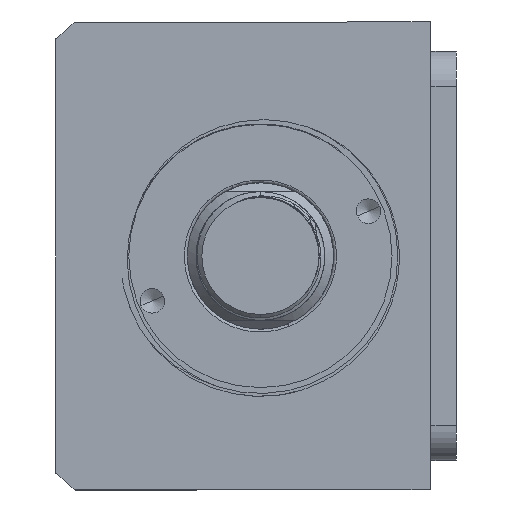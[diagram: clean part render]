
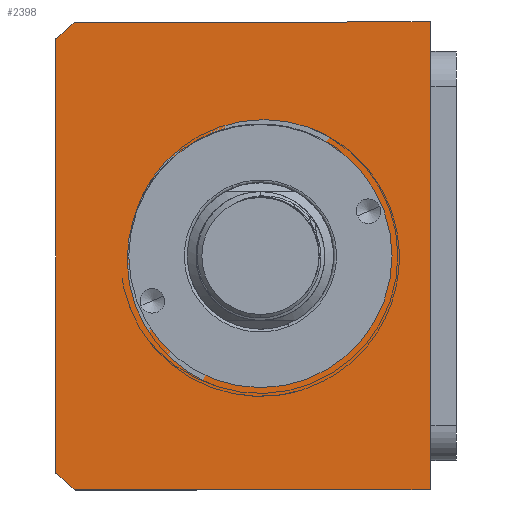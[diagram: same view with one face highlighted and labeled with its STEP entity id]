
A CAD part, front view. The second image highlights one B-rep face of the part: STEP entity #2398.
In plain terms, the highlighted planar face has unit normal (0, -1, 0) as drawn and (0, 0, 1) by its records, which use the part's own axes.
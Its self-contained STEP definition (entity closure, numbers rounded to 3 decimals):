
#19 = EDGE_CURVE ( 'NONE', #7523, #5076, #9943, .T. ) ;
#578 = DIRECTION ( 'NONE',  ( 0., 0., 1. ) ) ;
#653 = FACE_OUTER_BOUND ( 'NONE', #3379, .T. ) ;
#754 = CARTESIAN_POINT ( 'NONE',  ( -40., -11.507, 115. ) ) ;
#1403 = ORIENTED_EDGE ( 'NONE', *, *, #12063, .T. ) ;
#1506 = AXIS2_PLACEMENT_3D ( 'NONE', #9922, #10005, #3648 ) ;
#1527 = PLANE ( 'NONE',  #1506 ) ;
#1690 = VERTEX_POINT ( 'NONE', #9118 ) ;
#1837 = CARTESIAN_POINT ( 'NONE',  ( 0., -40.507, 115. ) ) ;
#1945 = EDGE_CURVE ( 'NONE', #13014, #11831, #2325, .T. ) ;
#1974 = LINE ( 'NONE', #754, #12934 ) ;
#2065 = EDGE_CURVE ( 'NONE', #13606, #13014, #2645, .T. ) ;
#2257 = DIRECTION ( 'NONE',  ( 0., 0., 1. ) ) ;
#2325 = LINE ( 'NONE', #10816, #5145 ) ;
#2398 = ADVANCED_FACE ( 'NONE', ( #11297, #653 ), #1527, .T. ) ;
#2408 = CARTESIAN_POINT ( 'NONE',  ( 0., -40.507, 115. ) ) ;
#2645 = CIRCLE ( 'NONE', #6039, 51. ) ;
#2891 = DIRECTION ( 'NONE',  ( 1., 0., 0. ) ) ;
#3378 = DIRECTION ( 'NONE',  ( 0., 1., 0. ) ) ;
#3379 = EDGE_LOOP ( 'NONE', ( #6278, #11901, #1403, #3975, #8883, #13219 ) ) ;
#3463 = DIRECTION ( 'NONE',  ( 1., 0., 0. ) ) ;
#3539 = EDGE_CURVE ( 'NONE', #11831, #1690, #1974, .T. ) ;
#3648 = DIRECTION ( 'NONE',  ( 1., 0., 0. ) ) ;
#3975 = ORIENTED_EDGE ( 'NONE', *, *, #2065, .T. ) ;
#4186 = CARTESIAN_POINT ( 'NONE',  ( 40., -72.145, 115. ) ) ;
#4228 = CIRCLE ( 'NONE', #6973, 22.5 ) ;
#4627 = AXIS2_PLACEMENT_3D ( 'NONE', #6930, #578, #7985 ) ;
#4701 = EDGE_CURVE ( 'NONE', #1690, #11893, #9413, .T. ) ;
#5076 = VERTEX_POINT ( 'NONE', #12718 ) ;
#5145 = VECTOR ( 'NONE', #3378, 1000. ) ;
#5739 = VERTEX_POINT ( 'NONE', #6178 ) ;
#6039 = AXIS2_PLACEMENT_3D ( 'NONE', #2408, #9825, #3463 ) ;
#6178 = CARTESIAN_POINT ( 'NONE',  ( -37.094, -75.507, 115. ) ) ;
#6278 = ORIENTED_EDGE ( 'NONE', *, *, #4701, .T. ) ;
#6469 = CARTESIAN_POINT ( 'NONE',  ( 0., -40.507, 115. ) ) ;
#6587 = VECTOR ( 'NONE', #9026, 1000. ) ;
#6930 = CARTESIAN_POINT ( 'NONE',  ( 0., -40.507, 115. ) ) ;
#6973 = AXIS2_PLACEMENT_3D ( 'NONE', #1837, #9242, #2891 ) ;
#7523 = VERTEX_POINT ( 'NONE', #12179 ) ;
#7563 = EDGE_CURVE ( 'NONE', #11893, #5739, #13220, .T. ) ;
#7957 = CARTESIAN_POINT ( 'NONE',  ( -40., -11.507, 115. ) ) ;
#7985 = DIRECTION ( 'NONE',  ( 1., 0., 0. ) ) ;
#8341 = ORIENTED_EDGE ( 'NONE', *, *, #19, .F. ) ;
#8855 = VECTOR ( 'NONE', #11579, 1000. ) ;
#8883 = ORIENTED_EDGE ( 'NONE', *, *, #1945, .T. ) ;
#9026 = DIRECTION ( 'NONE',  ( 0., -1., 0. ) ) ;
#9118 = CARTESIAN_POINT ( 'NONE',  ( -40., -11.507, 115. ) ) ;
#9195 = CARTESIAN_POINT ( 'NONE',  ( 40., -11.507, 115. ) ) ;
#9236 = DIRECTION ( 'NONE',  ( -1., 0., 0. ) ) ;
#9242 = DIRECTION ( 'NONE',  ( 0., 0., 1. ) ) ;
#9413 = LINE ( 'NONE', #7957, #6587 ) ;
#9671 = DIRECTION ( 'NONE',  ( 1., 0., 0. ) ) ;
#9825 = DIRECTION ( 'NONE',  ( 0., 0., 1. ) ) ;
#9922 = CARTESIAN_POINT ( 'NONE',  ( 0., 0., 115. ) ) ;
#9943 = CIRCLE ( 'NONE', #12587, 22.5 ) ;
#10005 = DIRECTION ( 'NONE',  ( 0., 0., 1. ) ) ;
#10495 = CARTESIAN_POINT ( 'NONE',  ( -40., -75.507, 115. ) ) ;
#10816 = CARTESIAN_POINT ( 'NONE',  ( 40., -11.507, 115. ) ) ;
#11297 = FACE_BOUND ( 'NONE', #13105, .T. ) ;
#11579 = DIRECTION ( 'NONE',  ( 1., 0., 0. ) ) ;
#11730 = LINE ( 'NONE', #10495, #8855 ) ;
#11831 = VERTEX_POINT ( 'NONE', #9195 ) ;
#11850 = EDGE_CURVE ( 'NONE', #5076, #7523, #4228, .T. ) ;
#11893 = VERTEX_POINT ( 'NONE', #13515 ) ;
#11901 = ORIENTED_EDGE ( 'NONE', *, *, #7563, .T. ) ;
#12063 = EDGE_CURVE ( 'NONE', #5739, #13606, #11730, .T. ) ;
#12179 = CARTESIAN_POINT ( 'NONE',  ( 22.5, -40.507, 115. ) ) ;
#12517 = ORIENTED_EDGE ( 'NONE', *, *, #11850, .F. ) ;
#12587 = AXIS2_PLACEMENT_3D ( 'NONE', #6469, #2257, #9671 ) ;
#12718 = CARTESIAN_POINT ( 'NONE',  ( -22.5, -40.507, 115. ) ) ;
#12934 = VECTOR ( 'NONE', #9236, 1000. ) ;
#13014 = VERTEX_POINT ( 'NONE', #4186 ) ;
#13105 = EDGE_LOOP ( 'NONE', ( #8341, #12517 ) ) ;
#13219 = ORIENTED_EDGE ( 'NONE', *, *, #3539, .T. ) ;
#13220 = CIRCLE ( 'NONE', #4627, 51. ) ;
#13515 = CARTESIAN_POINT ( 'NONE',  ( -40., -72.145, 115. ) ) ;
#13606 = VERTEX_POINT ( 'NONE', #13749 ) ;
#13749 = CARTESIAN_POINT ( 'NONE',  ( 37.094, -75.507, 115. ) ) ;
